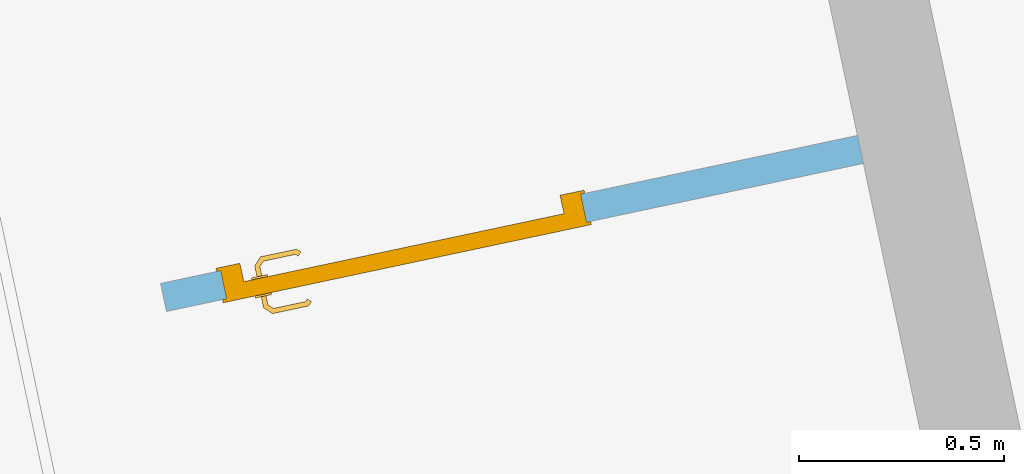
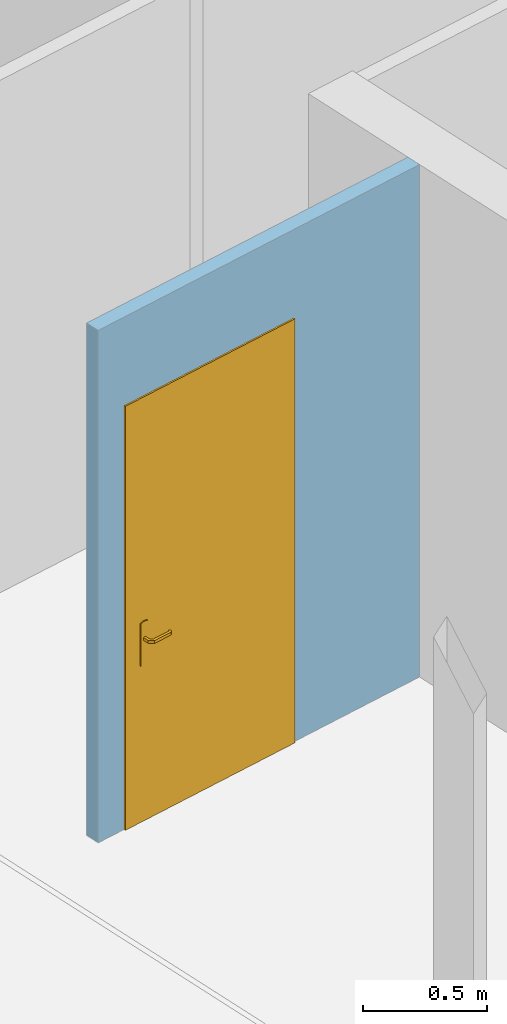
# One storey, part 7 of 11: 1 door, 1 opening, plus 1 element that does not belong to this part.
"""IFC2X3 building model written with IfcOpenShell, lengths in centimetres."""

from ifc_helpers import new_model, entity, si_unit, converted_unit, derived_unit, direction, frame, frame_2d, origin, place, context, subcontext, project, spatial, rectangle, extrude, faceted_brep, source, transform, mapped, material, layer, layer_set, layer_usage, type_object, type_shapes, element, fill, save


model = new_model("IFC2X3")

# Units and contexts
model_context = context("Model", 3, precision=0.001, world=origin(), true_north=direction((6.12303176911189e-17, 1.0)))
body_context = subcontext(model_context, "Body", "Model", "MODEL_VIEW")
ifc_project = project(units=[si_unit("LENGTHUNIT", "METRE", prefix="CENTI"), si_unit("AREAUNIT", "SQUARE_METRE"), si_unit("VOLUMEUNIT", "CUBIC_METRE"), converted_unit("PLANEANGLEUNIT", "DEGREE", entity("IfcRatioMeasure", 0.0174532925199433), si_unit("PLANEANGLEUNIT", "RADIAN"), dimensions=[0, 0, 0, 0, 0, 0, 0]), si_unit("MASSUNIT", "GRAM", prefix="KILO"), derived_unit("MASSDENSITYUNIT", [(si_unit("MASSUNIT", "GRAM", prefix="KILO"), 1), (si_unit("LENGTHUNIT", "METRE"), -3)]), derived_unit("IONCONCENTRATIONUNIT", [(si_unit("MASSUNIT", "GRAM", prefix="KILO"), 1), (si_unit("LENGTHUNIT", "METRE"), -3)]), derived_unit("MOMENTOFINERTIAUNIT", [(si_unit("LENGTHUNIT", "METRE"), 4)]), si_unit("TIMEUNIT", "SECOND"), si_unit("FREQUENCYUNIT", "HERTZ"), si_unit("THERMODYNAMICTEMPERATUREUNIT", "DEGREE_CELSIUS"), derived_unit("THERMALTRANSMITTANCEUNIT", [(si_unit("MASSUNIT", "GRAM", prefix="KILO"), 1), (si_unit("THERMODYNAMICTEMPERATUREUNIT", "KELVIN"), -1), (si_unit("TIMEUNIT", "SECOND"), -3)]), derived_unit("THERMALCONDUCTANCEUNIT", [(si_unit("MASSUNIT", "GRAM", prefix="KILO"), 1), (si_unit("THERMODYNAMICTEMPERATUREUNIT", "KELVIN"), -1), (si_unit("TIMEUNIT", "SECOND"), -3), (si_unit("LENGTHUNIT", "METRE"), 1)]), derived_unit("VOLUMETRICFLOWRATEUNIT", [(si_unit("LENGTHUNIT", "METRE"), 3), (si_unit("TIMEUNIT", "SECOND"), -1)]), derived_unit("MASSFLOWRATEUNIT", [(si_unit("MASSUNIT", "GRAM", prefix="KILO"), 1), (si_unit("TIMEUNIT", "SECOND"), -1)]), derived_unit("ROTATIONALFREQUENCYUNIT", [(si_unit("TIMEUNIT", "SECOND"), -1)]), si_unit("ELECTRICCURRENTUNIT", "AMPERE"), si_unit("ELECTRICVOLTAGEUNIT", "VOLT"), si_unit("POWERUNIT", "WATT"), si_unit("FORCEUNIT", "NEWTON", prefix="KILO"), si_unit("ILLUMINANCEUNIT", "LUX"), si_unit("LUMINOUSFLUXUNIT", "LUMEN"), si_unit("LUMINOUSINTENSITYUNIT", "CANDELA"), derived_unit("USERDEFINED", [(si_unit("MASSUNIT", "GRAM", prefix="KILO"), -1), (si_unit("LENGTHUNIT", "METRE"), -2), (si_unit("TIMEUNIT", "SECOND"), 3), (si_unit("LUMINOUSFLUXUNIT", "LUMEN"), 1)]), derived_unit("USERDEFINED", [(si_unit("MASSUNIT", "GRAM", prefix="KILO"), 1), (si_unit("TIMEUNIT", "SECOND"), -3), (si_unit("LENGTHUNIT", "METRE"), 3), (si_unit("ELECTRICCURRENTUNIT", "AMPERE"), -2)]), derived_unit("SOUNDPOWERUNIT", [(si_unit("MASSUNIT", "GRAM", prefix="KILO"), 1), (si_unit("TIMEUNIT", "SECOND"), -3), (si_unit("LENGTHUNIT", "METRE"), 2)]), derived_unit("SOUNDPRESSUREUNIT", [(si_unit("MASSUNIT", "GRAM", prefix="KILO"), 1), (si_unit("LENGTHUNIT", "METRE"), -1), (si_unit("TIMEUNIT", "SECOND"), -2)]), derived_unit("LINEARVELOCITYUNIT", [(si_unit("LENGTHUNIT", "METRE"), 1), (si_unit("TIMEUNIT", "SECOND"), -1)]), si_unit("PRESSUREUNIT", "PASCAL"), derived_unit("USERDEFINED", [(si_unit("MASSUNIT", "GRAM", prefix="KILO"), 1), (si_unit("LENGTHUNIT", "METRE"), -2), (si_unit("TIMEUNIT", "SECOND"), -2)]), derived_unit("LINEARFORCEUNIT", [(si_unit("MASSUNIT", "GRAM", prefix="KILO"), 1), (si_unit("TIMEUNIT", "SECOND"), -2)]), derived_unit("PLANARFORCEUNIT", [(si_unit("MASSUNIT", "GRAM", prefix="KILO"), 1), (si_unit("LENGTHUNIT", "METRE"), -1), (si_unit("TIMEUNIT", "SECOND"), -2)]), derived_unit("SPECIFICHEATCAPACITYUNIT", [(si_unit("THERMODYNAMICTEMPERATUREUNIT", "KELVIN"), -1), (si_unit("LENGTHUNIT", "METRE"), 2), (si_unit("TIMEUNIT", "SECOND"), -2)]), derived_unit("HEATINGVALUEUNIT", [(si_unit("LENGTHUNIT", "METRE"), 2), (si_unit("TIMEUNIT", "SECOND"), -2)]), derived_unit("VAPORPERMEABILITYUNIT", [(si_unit("LENGTHUNIT", "METRE"), -1), (si_unit("TIMEUNIT", "SECOND"), 1)]), derived_unit("DYNAMICVISCOSITYUNIT", [(si_unit("MASSUNIT", "GRAM", prefix="KILO"), 1), (si_unit("TIMEUNIT", "SECOND"), -1), (si_unit("LENGTHUNIT", "METRE"), -1)]), derived_unit("THERMALEXPANSIONCOEFFICIENTUNIT", [(si_unit("THERMODYNAMICTEMPERATUREUNIT", "KELVIN"), -1)]), derived_unit("MODULUSOFELASTICITYUNIT", [(si_unit("MASSUNIT", "GRAM", prefix="KILO"), 1), (si_unit("LENGTHUNIT", "METRE"), -1), (si_unit("TIMEUNIT", "SECOND"), -2)]), derived_unit("ISOTHERMALMOISTURECAPACITYUNIT", [(si_unit("LENGTHUNIT", "METRE"), 3), (si_unit("MASSUNIT", "GRAM", prefix="KILO"), -1)]), derived_unit("MOISTUREDIFFUSIVITYUNIT", [(si_unit("TIMEUNIT", "SECOND"), -1), (si_unit("LENGTHUNIT", "METRE"), 2)])], contexts=[model_context])

# Site, building, storey
site_placement = place(None, frame((14083.8920177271, -6853.25409548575, 6900.0), z_axis=(0.0, 0.0, 1.0), x_axis=(0.978188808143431, 0.207717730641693, 0.0)))
site = spatial("IfcSite", under=ifc_project, at=site_placement, Name="Surface", CompositionType="ELEMENT")
building_placement = place(site_placement, origin())
building = spatial("IfcBuilding", under=site, at=building_placement, CompositionType="ELEMENT")
storey_placement = place(building_placement, frame((0.0, 0.0, 17.0)))
storey = spatial("IfcBuildingStorey", under=building, at=storey_placement, Name="Rez de chaussée", CompositionType="ELEMENT", Elevation=17.0000000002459)

# Wall, opening, door
ifc_material_1 = material(Name="__ BA 13")
ifc_layer = layer(ifc_material_1, 7.0)
ifc_layer_set = layer_set([ifc_layer], Name="Mur de base:*Cloison 72/48 cm")
ifc_layer_usage = layer_usage(ifc_layer_set, "AXIS2", "NEGATIVE", 3.5)
wall_type = type_object("IfcWallType", Name="Mur de base:*Cloison 72/48 cm", PredefinedType="STANDARD", material=ifc_layer_set)
wall_placement = place(storey_placement, frame((-7525.79714756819, 15075.1673447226, 0.0), z_axis=(0.0, 0.0, 1.0), x_axis=(-1.0, 0.0, 0.0)))
wall = element("IfcWallStandardCase", 1, at=wall_placement, inside=storey, type_object=wall_type, material=ifc_layer_usage, Name="Mur de base:*Cloison 72/48 cm", ObjectType="Mur de base:*Cloison 72/48 cm", context=body_context, shape_type="SweptSolid", body=[
    extrude(rectangle(XDim=174.157995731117, YDim=7.00000000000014, at=frame_2d((87.0789978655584, -8.66418048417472e-13), x_axis=(1.0, 0.0))), origin(), (0.0, 0.0, 1.0), 251.999999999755),
])
opening_placement = place(wall_placement, frame((69.1579957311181, -3.5, 0.0)))
opening = element("IfcOpeningElement", 2, at=opening_placement, cuts=wall, Name="*Porte_alveolaire:Pp 83 x 204:1", ObjectType="Opening", context=body_context, shape_type="SweptSolid", body=[
    extrude(rectangle(XDim=207.5, YDim=89.9999999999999, at=frame_2d((103.75, 45.0000000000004), x_axis=(1.0, 0.0))), frame((0.0, 0.0, 0.0), z_axis=(0.0, 1.0, 0.0), x_axis=(0.0, 0.0, 1.0)), (0.0, 0.0, 1.0), 7.0),
])
ifc_material_2 = material(Name="<Unnamed>")
door_style = type_object("IfcDoorStyle", Name="*Porte_alveolaire:Pp 83 x 204", ConstructionType="NOTDEFINED", OperationType="NOTDEFINED", ParameterTakesPrecedence=False, Sizeable=False, material=ifc_material_2)
shared_shape = source(origin(), body_context, "Body", "Brep", [
    faceted_brep([(8.7974701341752, 3.69999999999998, 89.2219559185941), (9.20252986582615, 3.69999999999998, 89.221955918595), (9.60000000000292, 3.69999999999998, 89.3000000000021), (9.60000000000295, 3.69999999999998, 90.699999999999), (9.20252986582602, 3.69999999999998, 90.7780440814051), (8.79747013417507, 3.69999999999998, 90.7780440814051), (8.39999999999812, 3.69999999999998, 90.699999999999), (8.39999999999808, 3.69999999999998, 89.2999999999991), (9.60000000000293, 5.94852045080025, 89.3000000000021), (9.60000000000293, 5.94852045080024, 90.699999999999), (9.20252986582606, 6.11315797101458, 90.7780440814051), (10.5838906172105, 7.49451872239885, 90.7780440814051), (10.4161093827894, 7.8995784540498, 90.7780440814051), (8.7974701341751, 6.28093920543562, 90.7780440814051), (19.5684749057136, 6.84673156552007, 90.7780440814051), (19.8548953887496, 7.1331520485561, 90.7780440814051), (19.0884689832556, 7.8995784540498, 90.7780440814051), (18.9206877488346, 7.49451872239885, 90.7780440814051), (8.39999999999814, 6.44557672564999, 90.699999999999), (8.39999999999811, 6.44557672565, 89.2999999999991), (8.7974701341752, 6.28093920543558, 89.2219559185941), (10.4161093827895, 7.89957845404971, 89.2219559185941), (10.5838906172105, 7.49451872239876, 89.221955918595), (9.20252986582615, 6.11315797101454, 89.221955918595), (19.8548953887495, 7.13315204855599, 89.221955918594), (19.5684749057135, 6.84673156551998, 89.221955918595), (18.9206877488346, 7.49451872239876, 89.221955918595), (19.0884689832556, 7.89957845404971, 89.221955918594), (10.7485281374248, 7.09704858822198, 89.3000000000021), (10.7485281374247, 7.09704858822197, 90.699999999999), (10.2514718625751, 8.29704858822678, 90.699999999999), (10.2514718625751, 8.2970485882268, 89.2999999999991), (14.7522879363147, 7.09704858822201, 89.300000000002), (18.7560502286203, 7.09704858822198, 89.300000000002), (18.7560502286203, 7.09704858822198, 90.699999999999), (14.7522891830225, 7.09704858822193, 90.699999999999), (14.7522891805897, 7.71249275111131, 90.7878116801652), (19.25310650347, 8.29704858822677, 90.699999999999), (15.2600577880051, 8.29704858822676, 90.699999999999), (19.25310650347, 8.2970485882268, 89.2999999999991), (14.2445205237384, 8.29704858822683, 89.2999999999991), (14.7522892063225, 7.7124927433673, 89.2121883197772), (19.287421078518, 6.56567773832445, 89.300000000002), (20.1359492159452, 7.41420587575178, 89.2999999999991), (20.1359492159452, 7.41420587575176, 90.699999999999), (19.287421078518, 6.56567773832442, 90.699999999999)], [[[0, 1, 2, 3, 4, 5, 6, 7]], [[3, 2, 8, 9]], [[9, 10, 4, 3]], [[10, 11, 12, 13, 5, 4]], [[14, 15, 16, 17]], [[13, 18, 6, 5]], [[7, 6, 18, 19]], [[19, 20, 0, 7]], [[20, 21, 22, 23, 1, 0]], [[24, 25, 26, 27]], [[23, 8, 2, 1]], [[9, 8, 28, 29]], [[29, 11, 10, 9]], [[12, 30, 18, 13]], [[19, 18, 30, 31]], [[31, 21, 20, 19]], [[22, 28, 8, 23]], [[28, 32, 33, 34, 35, 29]], [[11, 35, 36]], [[16, 37, 38]], [[30, 12, 38]], [[38, 12, 36]], [[36, 35, 17]], [[17, 16, 36]], [[35, 11, 29]], [[34, 17, 35]], [[11, 36, 12]], [[38, 36, 16]], [[31, 30, 38, 37, 39, 40]], [[40, 41, 21]], [[41, 40, 27]], [[21, 31, 40]], [[39, 27, 40]], [[41, 32, 22]], [[22, 21, 41]], [[26, 32, 41]], [[28, 22, 32]], [[32, 26, 33]], [[26, 41, 27]], [[42, 25, 24, 43, 44, 15, 14, 45]], [[34, 33, 42, 45]], [[45, 14, 17, 34]], [[15, 44, 37, 16]], [[39, 37, 44, 43]], [[43, 24, 27, 39]], [[25, 42, 33, 26]]]),
    faceted_brep([(8.79747013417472, -1.30000000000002, 90.7780440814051), (9.20252986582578, -1.30000000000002, 90.7780440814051), (9.60000000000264, -1.30000000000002, 90.6999999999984), (9.60000000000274, -1.30000000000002, 89.3000000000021), (9.20252986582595, -1.30000000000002, 89.221955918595), (8.79747013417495, -1.30000000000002, 89.221955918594), (8.39999999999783, -1.30000000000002, 89.2999999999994), (8.39999999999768, -1.30000000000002, 90.699999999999), (8.39999999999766, -4.06509507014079, 90.6999999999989), (8.79747013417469, -3.9004575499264, 90.7780440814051), (10.402358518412, -5.50534593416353, 90.7780440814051), (10.570139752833, -5.10028620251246, 90.7780440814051), (9.20252986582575, -3.73267631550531, 90.7780440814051), (19.852181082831, -4.73891952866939, 90.778044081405), (19.5657605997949, -4.45249904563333, 90.778044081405), (18.9179734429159, -5.10028620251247, 90.778044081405), (19.085754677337, -5.50534593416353, 90.778044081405), (9.60000000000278, -3.56803879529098, 90.699999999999), (9.60000000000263, -3.56803879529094, 89.3000000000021), (9.20252986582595, -3.73267631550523, 89.221955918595), (10.5701397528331, -5.10028620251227, 89.221955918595), (10.4023585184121, -5.50534593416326, 89.221955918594), (8.79747013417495, -3.90045754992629, 89.221955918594), (19.5657605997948, -4.45249904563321, 89.221955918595), (19.8521810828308, -4.73891952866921, 89.221955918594), (19.0857546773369, -5.50534593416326, 89.221955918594), (18.9179734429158, -5.10028620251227, 89.221955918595), (8.39999999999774, -4.06509507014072, 89.2999999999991), (10.2377209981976, -5.90281606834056, 90.6999999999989), (10.7347772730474, -4.70281606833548, 90.699999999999), (10.7347772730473, -4.70281606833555, 89.3000000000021), (10.2377209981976, -5.90281606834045, 89.2999999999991), (14.2307697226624, -5.90281606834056, 90.6999999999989), (14.7440566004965, -5.31828027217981, 90.7878115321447), (19.2503921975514, -5.90281606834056, 90.6999999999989), (14.7440565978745, -4.70281606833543, 90.699999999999), (18.7533359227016, -4.70281606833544, 90.6999999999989), (18.7533359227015, -4.70281606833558, 89.300000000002), (14.7440563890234, -4.70281606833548, 89.3000000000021), (14.7440565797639, -5.31828027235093, 89.2121884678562), (19.2503921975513, -5.90281606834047, 89.2999999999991), (15.2573436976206, -5.90281606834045, 89.2999999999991), (19.2847067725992, -4.17144521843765, 90.6999999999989), (20.1332349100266, -5.01997335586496, 90.6999999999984), (20.1332349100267, -5.019973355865, 89.2999999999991), (19.2847067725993, -4.17144521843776, 89.3000000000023)], [[[0, 1, 2, 3, 4, 5, 6, 7]], [[8, 9, 0, 7]], [[9, 10, 11, 12, 1, 0]], [[13, 14, 15, 16]], [[12, 17, 2, 1]], [[3, 2, 17, 18]], [[18, 19, 4, 3]], [[19, 20, 21, 22, 5, 4]], [[23, 24, 25, 26]], [[22, 27, 6, 5]], [[7, 6, 27, 8]], [[28, 10, 9, 8]], [[11, 29, 17, 12]], [[18, 17, 29, 30]], [[30, 20, 19, 18]], [[21, 31, 27, 22]], [[8, 27, 31, 28]], [[32, 33, 10]], [[33, 32, 16]], [[10, 28, 32]], [[34, 16, 32]], [[33, 35, 11]], [[11, 10, 33]], [[15, 35, 33]], [[29, 11, 35]], [[35, 15, 36]], [[15, 33, 16]], [[30, 29, 35, 36, 37, 38]], [[20, 38, 39]], [[25, 40, 41]], [[31, 21, 41]], [[41, 21, 39]], [[39, 38, 26]], [[26, 25, 39]], [[38, 20, 30]], [[37, 26, 38]], [[20, 39, 21]], [[41, 39, 25]], [[28, 31, 41, 40, 34, 32]], [[42, 14, 13, 43, 44, 24, 23, 45]], [[43, 13, 16, 34]], [[14, 42, 36, 15]], [[37, 36, 42, 45]], [[45, 23, 26, 37]], [[24, 44, 40, 25]], [[34, 40, 44, 43]]]),
    faceted_brep([(10.03527618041, 3.19999999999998, 76.6003983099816), (11.0, 3.19999999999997, 77.0), (11.0, 3.19999999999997, 98.0), (10.03527618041, 3.19999999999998, 98.3996016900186), (9.0, 3.19999999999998, 98.5358983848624), (7.96472381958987, 3.19999999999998, 98.3996016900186), (7.0, 3.19999999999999, 98.0), (7.0, 3.19999999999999, 77.0), (7.96472381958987, 3.19999999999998, 76.6003983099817), (9.0, 3.19999999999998, 76.4641016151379), (10.03527618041, 3.69999999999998, 98.3996016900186), (11.0, 3.69999999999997, 98.0), (11.0, 3.69999999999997, 77.0), (10.03527618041, 3.69999999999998, 76.6003983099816), (9.0, 3.69999999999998, 76.4641016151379), (7.96472381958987, 3.69999999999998, 76.6003983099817), (7.0, 3.69999999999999, 77.0), (7.0, 3.69999999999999, 98.0), (7.96472381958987, 3.69999999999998, 98.3996016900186), (9.0, 3.69999999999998, 98.5358983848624)], [[[0, 1, 2, 3, 4, 5, 6, 7, 8, 9]], [[10, 11, 12, 13, 14, 15, 16, 17, 18, 19]], [[11, 10, 3, 2]], [[3, 10, 19, 4]], [[19, 18, 5, 4]], [[18, 17, 6, 5]], [[7, 6, 17, 16]], [[16, 15, 8, 7]], [[8, 15, 14, 9]], [[14, 13, 0, 9]], [[13, 12, 1, 0]], [[2, 1, 12, 11]]]),
    faceted_brep([(10.03527618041, -1.30000000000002, 76.6003983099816), (11.0, -1.30000000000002, 77.0), (11.0, -1.30000000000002, 98.0), (10.03527618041, -1.30000000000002, 98.3996016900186), (9.0, -1.30000000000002, 98.5358983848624), (7.96472381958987, -1.30000000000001, 98.3996016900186), (7.0, -1.30000000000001, 98.0), (7.0, -1.30000000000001, 77.0), (7.96472381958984, -1.30000000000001, 76.6003983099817), (9.0, -1.30000000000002, 76.4641016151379), (10.03527618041, -0.800000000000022, 98.3996016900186), (11.0, -0.800000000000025, 98.0), (11.0, -0.800000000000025, 77.0), (10.03527618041, -0.800000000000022, 76.6003983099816), (9.0, -0.800000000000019, 76.4641016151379), (7.96472381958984, -0.800000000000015, 76.6003983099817), (7.0, -0.800000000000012, 77.0), (7.0, -0.800000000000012, 98.0), (7.96472381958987, -0.800000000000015, 98.3996016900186), (9.0, -0.800000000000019, 98.5358983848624)], [[[0, 1, 2, 3, 4, 5, 6, 7, 8, 9]], [[10, 11, 12, 13, 14, 15, 16, 17, 18, 19]], [[16, 15, 8, 7]], [[8, 15, 14, 9]], [[14, 13, 0, 9]], [[13, 12, 1, 0]], [[2, 1, 12, 11]], [[11, 10, 3, 2]], [[3, 10, 19, 4]], [[19, 18, 5, 4]], [[18, 17, 6, 5]], [[7, 6, 17, 16]]]),
    faceted_brep([(0.0, 0.0, 0.0), (0.0, 7.0, 0.0), (-1.0, 7.0, 0.0), (-1.0, 7.80000000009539, 0.0), (5.0, 7.80000000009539, 0.0), (5.0, 3.2, 0.0), (3.49999999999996, 3.2, 0.0), (3.49999999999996, -0.8, 0.0), (-1.0, -0.8, 0.0), (-1.0, 0.0, 0.0), (0.0, 0.0, 207.5), (0.0, 7.0, 207.5), (90.0, 7.0, 207.5), (90.0, 7.0, 0.0), (91.0, 7.0, 0.0), (91.0, 7.0, 208.5), (-1.0, 7.0, 208.5), (-1.0, 7.80000000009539, 208.5), (91.0, 7.80000000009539, 208.5), (91.0, 7.80000000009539, 0.0), (85.0, 7.80000000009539, 0.0), (85.0, 7.80000000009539, 202.500000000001), (5.0, 7.80000000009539, 202.500000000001), (5.0, 3.2, 202.500000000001), (85.0, 3.2, 202.500000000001), (85.0, 3.2, 0.0), (86.5, 3.2, 0.0), (86.5, 3.2, 204.0), (3.49999999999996, 3.2, 204.0), (3.49999999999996, -0.8, 204.0), (86.5, -0.8, 204.0), (86.5, -0.8, 0.0), (91.0, -0.8, 0.0), (91.0, -0.8, 208.5), (-1.0, -0.8, 208.5), (-1.0, 0.0, 208.5), (91.0, 0.0, 208.5), (91.0, 0.0, 0.0), (90.0, 0.0, 0.0), (90.0, 0.0, 207.5)], [[[0, 1, 2, 3, 4, 5, 6, 7, 8, 9]], [[1, 0, 10, 11]], [[2, 1, 11, 12, 13, 14, 15, 16]], [[3, 2, 16, 17]], [[4, 3, 17, 18, 19, 20, 21, 22]], [[5, 4, 22, 23]], [[6, 5, 23, 24, 25, 26, 27, 28]], [[7, 6, 28, 29]], [[8, 7, 29, 30, 31, 32, 33, 34]], [[9, 8, 34, 35]], [[0, 9, 35, 36, 37, 38, 39, 10]], [[12, 39, 38, 13]], [[38, 37, 32, 31, 26, 25, 20, 19, 14, 13]], [[18, 15, 14, 19]], [[24, 21, 20, 25]], [[30, 27, 26, 31]], [[36, 33, 32, 37]], [[11, 10, 39, 12]], [[17, 16, 15, 18]], [[23, 22, 21, 24]], [[29, 28, 27, 30]], [[35, 34, 33, 36]]]),
    faceted_brep([(3.49999999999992, -0.800000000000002, 204.0), (3.49999999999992, -0.800000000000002, 0.0), (86.5, -0.800000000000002, 0.0), (86.5, -0.800000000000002, 204.0), (3.49999999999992, 3.2, 204.0), (86.5, 3.2, 204.0), (86.5, 3.2, 0.0), (3.49999999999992, 3.2, 0.0)], [[[0, 1, 2, 3]], [[4, 5, 6, 7]], [[1, 0, 4, 7]], [[2, 1, 7, 6]], [[3, 2, 6, 5]], [[0, 3, 5, 4]]]),
])
type_shapes(door_style, [shared_shape])
door_placement = place(opening_placement, frame((90.0, 7.0, 0.0), z_axis=(0.0, 0.0, 1.0), x_axis=(-1.0, 0.0, 0.0)))
door = element("IfcDoor", 3, at=door_placement, inside=storey, type_object=door_style, material=ifc_material_2, Name="*Porte_alveolaire:Pp 83 x 204", ObjectType="*Porte_alveolaire:Pp 83 x 204", OverallHeight=207.5, OverallWidth=90.0000000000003, context=body_context, shape_type="MappedRepresentation", body=[
    mapped(shared_shape, transform((0.0, 0.0, 0.0), scale=1.0)),
])
fill(opening, door)

save(model, "model.ifc")
